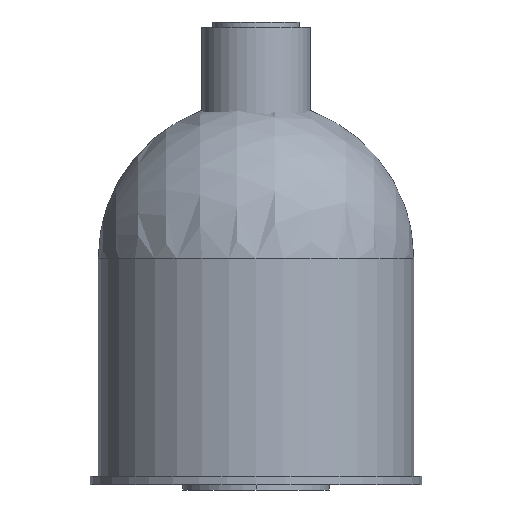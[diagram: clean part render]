
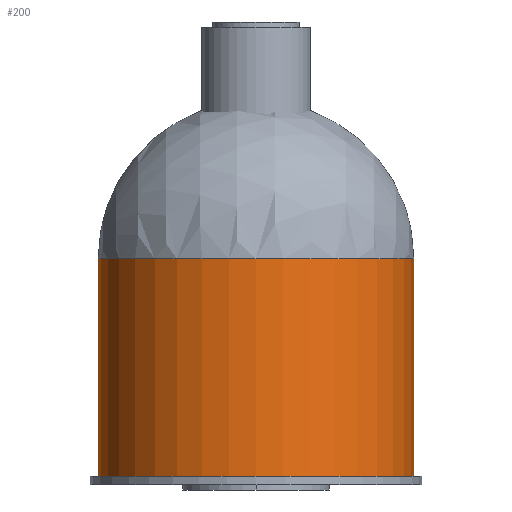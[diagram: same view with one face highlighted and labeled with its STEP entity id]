
A CAD part, front view. The second image highlights one B-rep face of the part: STEP entity #200.
In plain terms, the highlighted cylindrical face has radius 58 mm (diameter 116 mm), a partial arc.
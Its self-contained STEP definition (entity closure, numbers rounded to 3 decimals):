
#200=ADVANCED_FACE('',(#376),#377,.T.);
#376=FACE_OUTER_BOUND('',#574,.T.);
#377=CYLINDRICAL_SURFACE('',#575,58.0);
#574=EDGE_LOOP('',(#846,#847,#848,#849));
#575=AXIS2_PLACEMENT_3D('',#850,#851,#852);
#846=ORIENTED_EDGE('',*,*,#1087,.T.);
#847=ORIENTED_EDGE('',*,*,#1083,.T.);
#848=ORIENTED_EDGE('',*,*,#1088,.T.);
#849=ORIENTED_EDGE('',*,*,#1024,.T.);
#850=CARTESIAN_POINT('',(0.,0.0,-12.0));
#851=DIRECTION('',(0.,0.0,1.0));
#852=DIRECTION('',(1.0,0.0,0.));
#1024=EDGE_CURVE('',#1184,#1183,#1186,.T.);
#1083=EDGE_CURVE('',#1270,#1271,#1272,.T.);
#1087=EDGE_CURVE('',#1183,#1270,#1276,.T.);
#1088=EDGE_CURVE('',#1271,#1184,#1277,.T.);
#1183=VERTEX_POINT('',#1388);
#1184=VERTEX_POINT('',#1389);
#1186=CIRCLE('',#1391,58.0);
#1270=VERTEX_POINT('',#1493);
#1271=VERTEX_POINT('',#1494);
#1272=CIRCLE('',#1495,58.0);
#1276=LINE('',#1499,#1500);
#1277=LINE('',#1501,#1502);
#1388=CARTESIAN_POINT('',(58.0,0.0,-12.0));
#1389=CARTESIAN_POINT('',(-58.0,0.,-12.0));
#1391=AXIS2_PLACEMENT_3D('',#1611,#1612,#1613);
#1493=CARTESIAN_POINT('',(58.0,0.0,68.0));
#1494=CARTESIAN_POINT('',(-58.0,0.,68.0));
#1495=AXIS2_PLACEMENT_3D('',#1695,#1696,#1697);
#1499=CARTESIAN_POINT('',(58.0,0.,-12.0));
#1500=VECTOR('',#1701,1.0);
#1501=CARTESIAN_POINT('',(-58.0,0.,-12.0));
#1502=VECTOR('',#1702,1.0);
#1611=CARTESIAN_POINT('',(0.,0.0,-12.0));
#1612=DIRECTION('',(0.,0.0,1.0));
#1613=DIRECTION('',(1.0,0.0,0.));
#1695=CARTESIAN_POINT('',(0.,0.0,68.0));
#1696=DIRECTION('',(0.,0.0,-1.0));
#1697=DIRECTION('',(1.0,0.0,0.));
#1701=DIRECTION('',(0.,0.0,1.0));
#1702=DIRECTION('',(0.,-0.0,-1.0));
